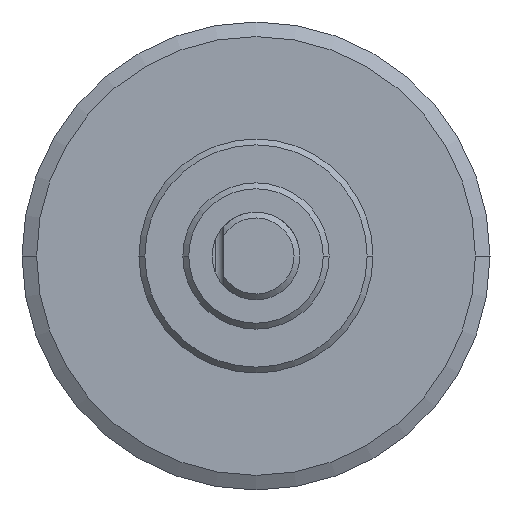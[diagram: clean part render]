
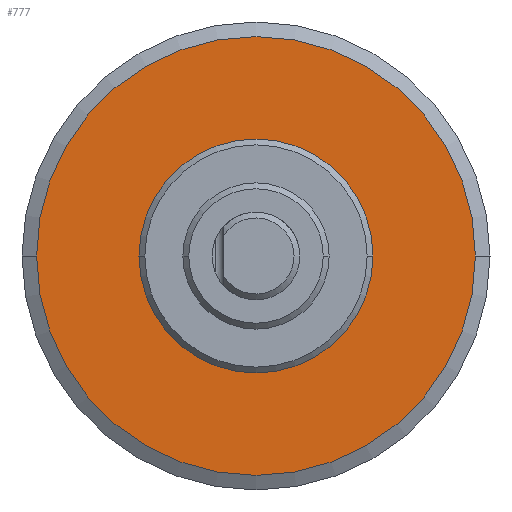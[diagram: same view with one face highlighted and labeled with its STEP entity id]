
A CAD part, left-side view. The second image highlights one B-rep face of the part: STEP entity #777.
In plain terms, the highlighted planar face has unit normal (-1, 0, 0).
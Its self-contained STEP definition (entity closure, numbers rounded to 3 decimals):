
#171=CARTESIAN_POINT('',(-18.,0.,0.));
#172=DIRECTION('',(1.,0.,0.));
#173=DIRECTION('',(0.,-1.,0.));
#174=AXIS2_PLACEMENT_3D('',#171,#172,#173);
#176=CARTESIAN_POINT('',(-18.,0.,0.));
#177=DIRECTION('',(1.,0.,0.));
#178=DIRECTION('',(0.,0.,-1.));
#179=AXIS2_PLACEMENT_3D('',#176,#177,#178);
#181=CARTESIAN_POINT('',(-18.,0.,0.));
#182=DIRECTION('',(1.,0.,0.));
#183=DIRECTION('',(0.,1.,0.));
#184=AXIS2_PLACEMENT_3D('',#181,#182,#183);
#186=CARTESIAN_POINT('',(-18.,0.,0.));
#187=DIRECTION('',(-1.,0.,0.));
#188=DIRECTION('',(0.,-1.,0.));
#189=AXIS2_PLACEMENT_3D('',#186,#187,#188);
#191=CARTESIAN_POINT('',(-18.,0.,0.));
#192=DIRECTION('',(-1.,0.,0.));
#193=DIRECTION('',(0.,1.,0.));
#194=AXIS2_PLACEMENT_3D('',#191,#192,#193);
#433=CARTESIAN_POINT('',(-18.,-3.75,0.));
#434=VERTEX_POINT('',#433);
#435=CARTESIAN_POINT('',(-18.,0.,
-3.75));
#436=VERTEX_POINT('',#435);
#437=CARTESIAN_POINT('',(-18.,3.75,0.));
#438=VERTEX_POINT('',#437);
#443=CARTESIAN_POINT('',(-18.,-2.,0.));
#444=CARTESIAN_POINT('',(-18.,2.,0.));
#445=VERTEX_POINT('',#443);
#446=VERTEX_POINT('',#444);
#760=CARTESIAN_POINT('',(-18.,0.,0.));
#761=DIRECTION('',(1.,0.,0.));
#762=DIRECTION('',(0.,-1.,0.));
#763=AXIS2_PLACEMENT_3D('',#760,#761,#762);
#764=PLANE('',#763);
#766=ORIENTED_EDGE('',*,*,#765,.T.);
#768=ORIENTED_EDGE('',*,*,#767,.T.);
#770=ORIENTED_EDGE('',*,*,#769,.T.);
#771=EDGE_LOOP('',(#766,#768,#770));
#772=FACE_OUTER_BOUND('',#771,.F.);
#773=ORIENTED_EDGE('',*,*,#739,.T.);
#774=ORIENTED_EDGE('',*,*,#754,.T.);
#775=EDGE_LOOP('',(#773,#774));
#776=FACE_BOUND('',#775,.F.);
#175=CIRCLE('',#174,3.75);
#180=CIRCLE('',#179,3.75);
#185=CIRCLE('',#184,3.75);
#190=CIRCLE('',#189,2.);
#195=CIRCLE('',#194,2.);
#739=EDGE_CURVE('',#445,#446,#190,.T.);
#754=EDGE_CURVE('',#446,#445,#195,.T.);
#765=EDGE_CURVE('',#434,#436,#175,.T.);
#767=EDGE_CURVE('',#436,#438,#180,.T.);
#769=EDGE_CURVE('',#438,#434,#185,.T.);
#777=ADVANCED_FACE('',(#772,#776),#764,.F.);
